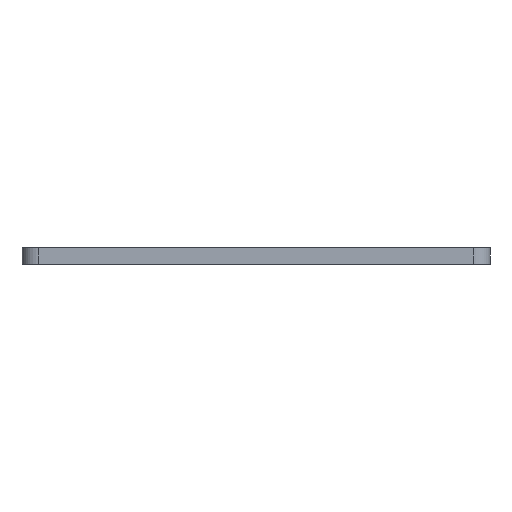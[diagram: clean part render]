
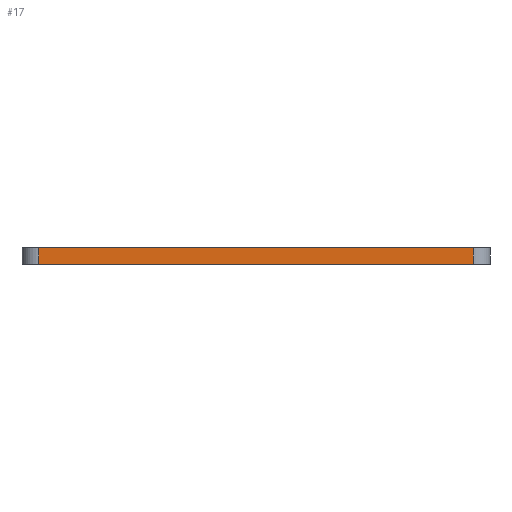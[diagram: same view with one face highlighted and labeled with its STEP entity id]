
A CAD part, left-side view. The second image highlights one B-rep face of the part: STEP entity #17.
In plain terms, the highlighted planar face has unit normal (-1, 0, 0).
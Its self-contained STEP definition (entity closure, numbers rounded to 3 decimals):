
#17 = ADVANCED_FACE('',(#18),#32,.F.);
#18 = FACE_BOUND('',#19,.F.);
#19 = EDGE_LOOP('',(#20,#55,#83,#111));
#20 = ORIENTED_EDGE('',*,*,#21,.F.);
#21 = EDGE_CURVE('',#22,#24,#26,.T.);
#22 = VERTEX_POINT('',#23);
#23 = CARTESIAN_POINT('',(-26.5,-18.,-12.1));
#24 = VERTEX_POINT('',#25);
#25 = CARTESIAN_POINT('',(-26.5,34.,-12.1));
#26 = SURFACE_CURVE('',#27,(#31,#43),.PCURVE_S1.);
#27 = LINE('',#28,#29);
#28 = CARTESIAN_POINT('',(-26.5,-20.,-12.1));
#29 = VECTOR('',#30,1.);
#30 = DIRECTION('',(0.,1.,0.));
#31 = PCURVE('',#32,#37);
#32 = PLANE('',#33);
#33 = AXIS2_PLACEMENT_3D('',#34,#35,#36);
#34 = CARTESIAN_POINT('',(-26.5,-20.,-14.1));
#35 = DIRECTION('',(1.,0.,0.));
#36 = DIRECTION('',(0.,0.,1.));
#37 = DEFINITIONAL_REPRESENTATION('',(#38),#42);
#38 = LINE('',#39,#40);
#39 = CARTESIAN_POINT('',(2.,0.));
#40 = VECTOR('',#41,1.);
#41 = DIRECTION('',(0.,-1.));
#42 = ( GEOMETRIC_REPRESENTATION_CONTEXT(2) 
PARAMETRIC_REPRESENTATION_CONTEXT() REPRESENTATION_CONTEXT('2D SPACE',''
  ) );
#43 = PCURVE('',#44,#49);
#44 = PLANE('',#45);
#45 = AXIS2_PLACEMENT_3D('',#46,#47,#48);
#46 = CARTESIAN_POINT('',(-26.5,-20.,-12.1));
#47 = DIRECTION('',(0.,0.,1.));
#48 = DIRECTION('',(1.,0.,0.));
#49 = DEFINITIONAL_REPRESENTATION('',(#50),#54);
#50 = LINE('',#51,#52);
#51 = CARTESIAN_POINT('',(0.,0.));
#52 = VECTOR('',#53,1.);
#53 = DIRECTION('',(0.,1.));
#54 = ( GEOMETRIC_REPRESENTATION_CONTEXT(2) 
PARAMETRIC_REPRESENTATION_CONTEXT() REPRESENTATION_CONTEXT('2D SPACE',''
  ) );
#55 = ORIENTED_EDGE('',*,*,#56,.F.);
#56 = EDGE_CURVE('',#57,#22,#59,.T.);
#57 = VERTEX_POINT('',#58);
#58 = CARTESIAN_POINT('',(-26.5,-18.,-14.1));
#59 = SURFACE_CURVE('',#60,(#64,#71),.PCURVE_S1.);
#60 = LINE('',#61,#62);
#61 = CARTESIAN_POINT('',(-26.5,-18.,-14.1));
#62 = VECTOR('',#63,1.);
#63 = DIRECTION('',(0.,0.,1.));
#64 = PCURVE('',#32,#65);
#65 = DEFINITIONAL_REPRESENTATION('',(#66),#70);
#66 = LINE('',#67,#68);
#67 = CARTESIAN_POINT('',(0.,-2.));
#68 = VECTOR('',#69,1.);
#69 = DIRECTION('',(1.,0.));
#70 = ( GEOMETRIC_REPRESENTATION_CONTEXT(2) 
PARAMETRIC_REPRESENTATION_CONTEXT() REPRESENTATION_CONTEXT('2D SPACE',''
  ) );
#71 = PCURVE('',#72,#77);
#72 = CYLINDRICAL_SURFACE('',#73,2.);
#73 = AXIS2_PLACEMENT_3D('',#74,#75,#76);
#74 = CARTESIAN_POINT('',(-24.5,-18.,-14.1));
#75 = DIRECTION('',(0.,0.,1.));
#76 = DIRECTION('',(-1.,-0.,0.));
#77 = DEFINITIONAL_REPRESENTATION('',(#78),#82);
#78 = LINE('',#79,#80);
#79 = CARTESIAN_POINT('',(0.,0.));
#80 = VECTOR('',#81,1.);
#81 = DIRECTION('',(0.,1.));
#82 = ( GEOMETRIC_REPRESENTATION_CONTEXT(2) 
PARAMETRIC_REPRESENTATION_CONTEXT() REPRESENTATION_CONTEXT('2D SPACE',''
  ) );
#83 = ORIENTED_EDGE('',*,*,#84,.T.);
#84 = EDGE_CURVE('',#57,#85,#87,.T.);
#85 = VERTEX_POINT('',#86);
#86 = CARTESIAN_POINT('',(-26.5,34.,-14.1));
#87 = SURFACE_CURVE('',#88,(#92,#99),.PCURVE_S1.);
#88 = LINE('',#89,#90);
#89 = CARTESIAN_POINT('',(-26.5,-20.,-14.1));
#90 = VECTOR('',#91,1.);
#91 = DIRECTION('',(0.,1.,0.));
#92 = PCURVE('',#32,#93);
#93 = DEFINITIONAL_REPRESENTATION('',(#94),#98);
#94 = LINE('',#95,#96);
#95 = CARTESIAN_POINT('',(0.,0.));
#96 = VECTOR('',#97,1.);
#97 = DIRECTION('',(0.,-1.));
#98 = ( GEOMETRIC_REPRESENTATION_CONTEXT(2) 
PARAMETRIC_REPRESENTATION_CONTEXT() REPRESENTATION_CONTEXT('2D SPACE',''
  ) );
#99 = PCURVE('',#100,#105);
#100 = PLANE('',#101);
#101 = AXIS2_PLACEMENT_3D('',#102,#103,#104);
#102 = CARTESIAN_POINT('',(-26.5,-20.,-14.1));
#103 = DIRECTION('',(0.,0.,1.));
#104 = DIRECTION('',(1.,0.,0.));
#105 = DEFINITIONAL_REPRESENTATION('',(#106),#110);
#106 = LINE('',#107,#108);
#107 = CARTESIAN_POINT('',(0.,0.));
#108 = VECTOR('',#109,1.);
#109 = DIRECTION('',(0.,1.));
#110 = ( GEOMETRIC_REPRESENTATION_CONTEXT(2) 
PARAMETRIC_REPRESENTATION_CONTEXT() REPRESENTATION_CONTEXT('2D SPACE',''
  ) );
#111 = ORIENTED_EDGE('',*,*,#112,.T.);
#112 = EDGE_CURVE('',#85,#24,#113,.T.);
#113 = SURFACE_CURVE('',#114,(#118,#125),.PCURVE_S1.);
#114 = LINE('',#115,#116);
#115 = CARTESIAN_POINT('',(-26.5,34.,-14.1));
#116 = VECTOR('',#117,1.);
#117 = DIRECTION('',(0.,0.,1.));
#118 = PCURVE('',#32,#119);
#119 = DEFINITIONAL_REPRESENTATION('',(#120),#124);
#120 = LINE('',#121,#122);
#121 = CARTESIAN_POINT('',(0.,-54.));
#122 = VECTOR('',#123,1.);
#123 = DIRECTION('',(1.,0.));
#124 = ( GEOMETRIC_REPRESENTATION_CONTEXT(2) 
PARAMETRIC_REPRESENTATION_CONTEXT() REPRESENTATION_CONTEXT('2D SPACE',''
  ) );
#125 = PCURVE('',#126,#131);
#126 = CYLINDRICAL_SURFACE('',#127,2.);
#127 = AXIS2_PLACEMENT_3D('',#128,#129,#130);
#128 = CARTESIAN_POINT('',(-24.5,34.,-14.1));
#129 = DIRECTION('',(0.,0.,1.));
#130 = DIRECTION('',(-1.,-0.,0.));
#131 = DEFINITIONAL_REPRESENTATION('',(#132),#136);
#132 = LINE('',#133,#134);
#133 = CARTESIAN_POINT('',(-0.,0.));
#134 = VECTOR('',#135,1.);
#135 = DIRECTION('',(-0.,1.));
#136 = ( GEOMETRIC_REPRESENTATION_CONTEXT(2) 
PARAMETRIC_REPRESENTATION_CONTEXT() REPRESENTATION_CONTEXT('2D SPACE',''
  ) );
